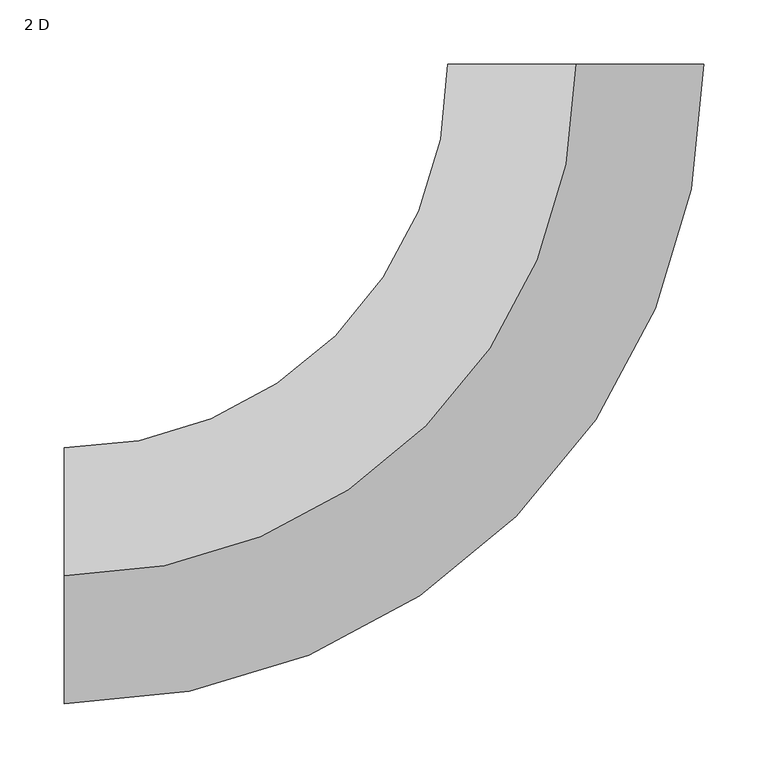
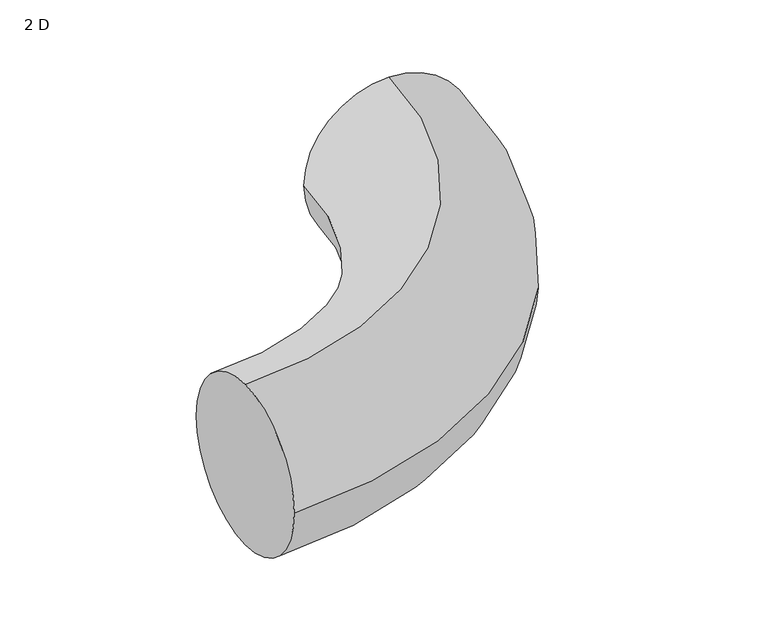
"""IFC4 building model written with IfcOpenShell, lengths in millimetres: duct fitting geometry, M_Cotovelo redondo : 2 D."""

from ifc_helpers import new_model, si_unit, point, frame, origin, place, context, project, spatial, circle_curve, ellipse_curve, trimmed, source, transform, mapped, element, save
from ifc_brep_helpers import plane_surface, revolved_surface, advanced_brep


def duct_fitting_2_d_646eede3(model_context):
    return source(origin(), model_context, "Body", "AdvancedBrep", [
        advanced_brep(
        [(-398.0, 0.0, 99.5), (-398.0, 99.5, 0.0), (-398.0, 0.0, -99.5), (-398.0, -99.5, 0.0), (0.0, 398.0, 99.5), (99.5, 398.0, 0.0), (0.0, 398.0, -99.5), (-99.5, 398.0, 0.0)],
        [
            (0, 1, circle_curve(frame((-398.0, 0.0, 0.0), z_axis=(-1.0, 0.0, 0.0), x_axis=(0.0, 1.0, 0.0)), 99.5)),
            (1, 2, circle_curve(frame((-398.0, 0.0, 0.0), z_axis=(-1.0, 0.0, 0.0), x_axis=(0.0, 1.0, 0.0)), 99.5)),
            (2, 3, circle_curve(frame((-398.0, 0.0, 0.0), z_axis=(-1.0, 0.0, 0.0), x_axis=(0.0, 1.0, 0.0)), 99.5)),
            (3, 0, circle_curve(frame((-398.0, 0.0, 0.0), z_axis=(-1.0, 0.0, 0.0), x_axis=(0.0, 1.0, 0.0)), 99.5)),
            (4, 5, circle_curve(frame((0.0, 398.0, 0.0), z_axis=(0.0, 1.0, 0.0), x_axis=(-1.0, 0.0, 0.0)), 99.5)),
            (5, 6, circle_curve(frame((0.0, 398.0, 0.0), z_axis=(0.0, 1.0, 0.0), x_axis=(-1.0, 0.0, 0.0)), 99.5)),
            (6, 7, circle_curve(frame((0.0, 398.0, 0.0), z_axis=(0.0, 1.0, 0.0), x_axis=(-1.0, 0.0, 0.0)), 99.5)),
            (7, 4, circle_curve(frame((0.0, 398.0, 0.0), z_axis=(0.0, 1.0, 0.0), x_axis=(-1.0, 0.0, 0.0)), 99.5)),
            (7, 1, circle_curve(frame((-398.0, 398.0, 0.0), z_axis=(0.0, 0.0, -1.0), x_axis=(0.0, -1.0, 0.0)), 298.5)),
            (0, 4, circle_curve(frame((-398.0, 398.0, 99.5), z_axis=(0.0, 0.0, 1.0), x_axis=(0.0, -1.0, 0.0)), 398.0)),
            (6, 2, circle_curve(frame((-398.0, 398.0, -99.5), z_axis=(0.0, 0.0, -1.0), x_axis=(0.0, -1.0, 0.0)), 398.0)),
            (5, 3, circle_curve(frame((-398.0, 398.0, 0.0), z_axis=(0.0, 0.0, -1.0), x_axis=(0.0, -1.0, 0.0)), 497.5)),
        ],
        [
            plane_surface(frame((-398.0, 0.0, 0.0), z_axis=(-1.0, 0.0, 0.0), x_axis=(0.0, 0.0, 1.0))),
            plane_surface(frame((0.0, 398.0, 0.0), z_axis=(0.0, 1.0, 0.0), x_axis=(0.0, 0.0, 1.0))),
            revolved_surface(trimmed(ellipse_curve(frame((-398.0, 0.0, 0.0), z_axis=(-1.0, 0.0, 0.0), x_axis=(0.0, 1.0, 0.0)), 99.5, 99.5), [point((-398.0, 0.0, 99.5))], [point((-398.0, 99.5, 0.0))], True, "CARTESIAN"), (-398.0, 398.0, 0.0), (0.0, 0.0, 1.0)),
            revolved_surface(trimmed(ellipse_curve(frame((-398.0, 0.0, 0.0), z_axis=(-1.0, 0.0, 0.0), x_axis=(0.0, 1.0, 0.0)), 99.5, 99.5), [point((-398.0, 99.5, 0.0))], [point((-398.0, 0.0, -99.5))], True, "CARTESIAN"), (-398.0, 398.0, 0.0), (0.0, 0.0, 1.0)),
            revolved_surface(trimmed(ellipse_curve(frame((-398.0, 0.0, 0.0), z_axis=(-1.0, 0.0, 0.0), x_axis=(0.0, 1.0, 0.0)), 99.5, 99.5), [point((-398.0, 0.0, -99.5))], [point((-398.0, -99.5, 0.0))], True, "CARTESIAN"), (-398.0, 398.0, 0.0), (0.0, 0.0, 1.0)),
            revolved_surface(trimmed(ellipse_curve(frame((-398.0, 0.0, 0.0), z_axis=(-1.0, 0.0, 0.0), x_axis=(0.0, 1.0, 0.0)), 99.5, 99.5), [point((-398.0, -99.5, 0.0))], [point((-398.0, 0.0, 99.5))], True, "CARTESIAN"), (-398.0, 398.0, 0.0), (0.0, 0.0, 1.0)),
        ],
        [
            (0, [[1, 2, 3, 4]]),
            (1, [[5, 6, 7, 8]]),
            (2, [[9, -1, 10, -8]]),
            (3, [[11, -2, -9, -7]]),
            (4, [[12, -3, -11, -6]]),
            (5, [[-10, -4, -12, -5]]),
        ],
    ),
    ])


if __name__ == "__main__":
    model = new_model("IFC4")
    model_context = context("Model", 3, world=origin())
    ifc_project = project(units=[si_unit("LENGTHUNIT", "METRE", prefix="MILLI")], contexts=[model_context])
    site = spatial("IfcSite", under=ifc_project)
    building = spatial("IfcBuilding", under=site)
    placement = place(None, origin())
    duct_fitting_2_d_shape = duct_fitting_2_d_646eede3(model_context)
    element("IfcDuctFitting", 1, ObjectType="M_Cotovelo redondo : 2 D", at=placement, inside=building, context=model_context, shape_type="MappedRepresentation", body=[
        mapped(duct_fitting_2_d_shape, transform((0.0, 0.0, 0.0), x_axis=(1.0, 0.0, 0.0), y_axis=(0.0, 1.0, 0.0), z_axis=(0.0, 0.0, 1.0))),
    ])
    save(model, "model.ifc")
